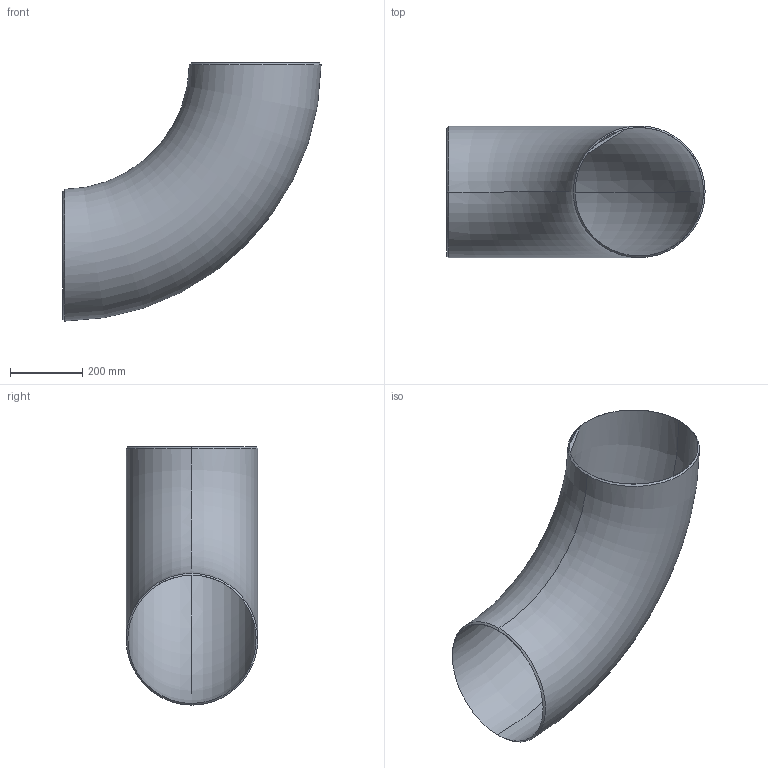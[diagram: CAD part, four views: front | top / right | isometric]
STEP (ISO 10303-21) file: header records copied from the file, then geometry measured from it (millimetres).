
FILE_DESCRIPTION (( 'STEP AP203' ), '1' );
FILE_NAME ('3D_R2651_14X10S_173425330.STEP', '2024-08-22T09:46:29', ( '' ), ( '' ), 'SwSTEP 2.0', 'SolidWorks 2024', '' );
FILE_SCHEMA (( 'CONFIG_CONTROL_DESIGN' ));
Length unit declared in the file: millimetre
Products named in the file (1): 3D_R2651_14X10S_173425330
Bounding box: 715.96 x 365.15 x 715.96 mm (x, y, z)
Volume: 4392830.1 mm3; surface area: 1898553 mm2
Topology: 1 solids, 1 shells, 10 faces, 24 edges, 15 vertices
Faces by surface type: bspline 4, torus 4, plane 2
Entity records: 4464 total; most frequent: CARTESIAN_POINT 4185, ORIENTED_EDGE 48, DIRECTION 30, EDGE_CURVE 24, B_SPLINE_CURVE_WITH_KNOTS 16, VERTEX_POINT 15, AXIS2_PLACEMENT_3D 15, EDGE_LOOP 11
